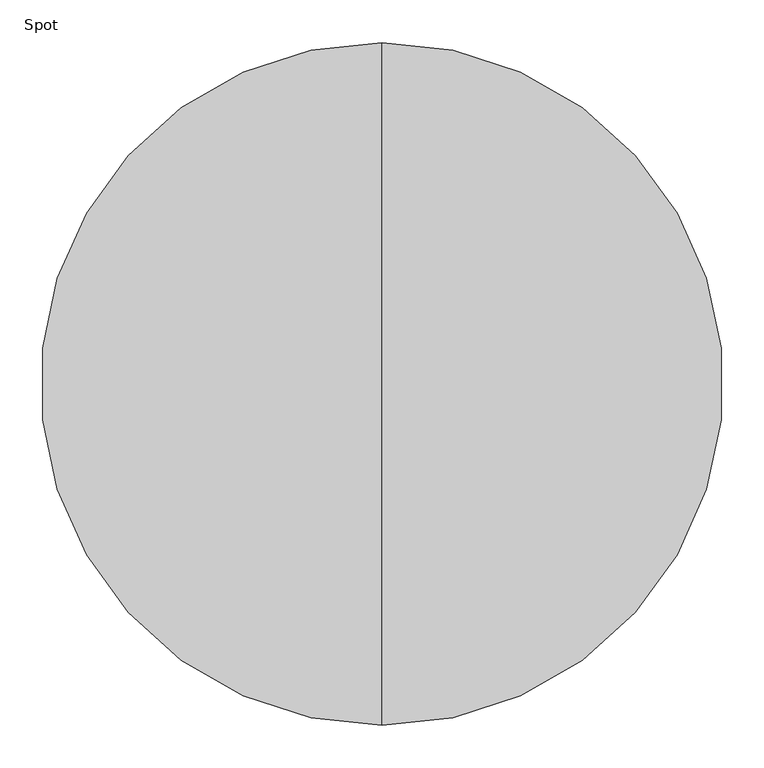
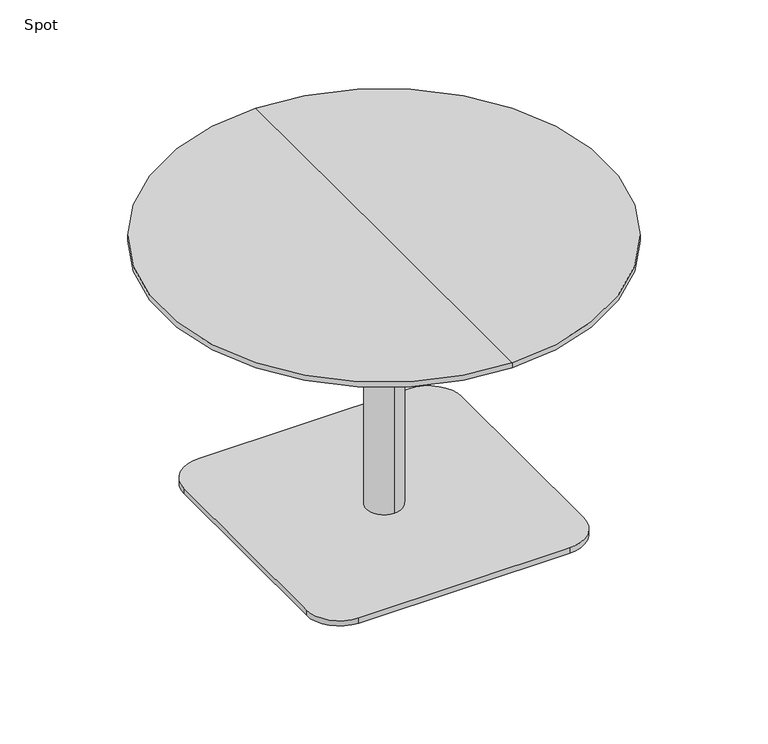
"""IFC4 building model written with IfcOpenShell, lengths in millimetres: furniture geometry, Spot : Bø80x52s."""

from ifc_helpers import new_model, si_unit, point, frame, frame_2d, origin, origin_with_axes, place, context, project, spatial, polyline, circle_curve, trimmed, segment, composite_curve, outline, extrude, source, transform, mapped, element, save
from ifc_brep_helpers import plane_surface, cylinder_surface, revolved_surface, advanced_brep


def spot_3f63cb51(model_context):
    return source(origin(), model_context, "Body", "SolidModel", [
        advanced_brep(
        [(0.0, -400.0, 520.0), (0.0, 400.0, 520.0), (0.0, 0.0, 520.0), (0.0, 400.0, 510.25), (0.0, -400.0, 510.25), (0.0, 0.0, 498.0), (0.0, -354.2823776, 498.0), (0.0, 354.2823776, 498.0)],
        [
            (0, 1, circle_curve(frame((0.0, 0.0, 520.0), z_axis=(0.0, 0.0, 1.0), x_axis=(0.0, -1.0, 0.0)), 400.0)),
            (1, 2),
            (2, 0),
            (3, 4, circle_curve(frame((0.0, 0.0, 510.25), z_axis=(0.0, 0.0, 1.0), x_axis=(0.0, -1.0, 0.0)), 400.0)),
            (4, 0),
            (0, 1, circle_curve(frame((0.0, 0.0, 520.0), z_axis=(0.0, 0.0, -1.0), x_axis=(0.0, -1.0, 0.0)), 400.0)),
            (1, 3),
            (5, 6),
            (6, 7, circle_curve(frame((0.0, 0.0, 498.0), z_axis=(0.0, 0.0, -1.0), x_axis=(0.0, -1.0, 0.0)), 354.2823776)),
            (7, 5),
            (7, 6, circle_curve(frame((0.0, 0.0, 498.0), z_axis=(0.0, 0.0, -1.0), x_axis=(0.0, -1.0, 0.0)), 354.2823776)),
            (4, 3, circle_curve(frame((0.0, 0.0, 510.25), z_axis=(0.0, 0.0, 1.0), x_axis=(0.0, -1.0, 0.0)), 400.0)),
            (6, 4),
            (3, 7),
        ],
        [
            plane_surface(frame((0.0, 0.0, 520.0), z_axis=(0.0, 0.0, 1.0), x_axis=(0.0, -1.0, 0.0))),
            cylinder_surface(frame((0.0, 0.0, 600.0), z_axis=(0.0, 0.0, -1.0), x_axis=(0.0, -1.0, 0.0)), 400.0),
            plane_surface(frame((0.0, 0.0, 498.0), z_axis=(0.0, 0.0, -1.0), x_axis=(0.0, -1.0, 0.0))),
            revolved_surface(polyline([(0.0, -400.0, 510.25), (0.0, -354.2823776, 498.0)]), (0.0, 0.0, 600.0), (0.0, 0.0, -1.0)),
        ],
        [
            (0, [[1, 2, 3]]),
            (1, [[4, 5, 6, 7]]),
            (2, [[8, 9, 10]]),
            (2, [[-10, 11, -8]]),
            (0, [[-6, -3, -2]]),
            (1, [[12, -7, -1, -5]]),
            (3, [[-9, 13, -4, 14]]),
            (3, [[-11, -14, -12, -13]]),
        ],
    ),
        extrude(outline(composite_curve([segment(trimmed(circle_curve(frame_2d((190.0, 190.0)), 60.0), [point((190.0, 250.0))], [point((250.0, 190.0))], False, "CARTESIAN"), True, "CONTINUOUS"), segment(polyline([(250.0, 190.0), (250.0, -190.0)]), True, "CONTINUOUS"), segment(trimmed(circle_curve(frame_2d((190.0, -190.0)), 60.0), [point((250.0, -190.0))], [point((190.0, -250.0))], False, "CARTESIAN"), True, "CONTINUOUS"), segment(polyline([(190.0, -250.0), (-190.0, -250.0)]), True, "CONTINUOUS"), segment(trimmed(circle_curve(frame_2d((-190.0, -190.0)), 60.0), [point((-190.0, -250.0))], [point((-250.0, -190.0))], False, "CARTESIAN"), True, "CONTINUOUS"), segment(polyline([(-250.0, -190.0), (-250.0, 190.0)]), True, "CONTINUOUS"), segment(trimmed(circle_curve(frame_2d((-190.0, 190.0)), 60.0), [point((-250.0, 190.0))], [point((-190.0, 250.0))], False, "CARTESIAN"), True, "CONTINUOUS"), segment(polyline([(-190.0, 250.0), (190.0, 250.0)]), True, "CONTINUOUS")], self_intersect=False)), origin_with_axes(), (0.0, 0.0, 1.0), 10.0),
        advanced_brep(
        [(0.0, 32.0, 10.0), (0.0, -32.0, 10.0), (0.0, -32.0, 467.406916), (0.0, 32.0, 467.406916), (0.0, 0.0, 10.0), (0.0, 150.0, 498.0), (0.0, -150.0, 498.0), (0.0, 0.0, 498.0), (0.0, 150.0, 486.7213673), (0.0, -150.0, 486.7213673)],
        [
            (0, 1, circle_curve(frame((0.0, 0.0, 10.0), z_axis=(0.0, 0.0, 1.0), x_axis=(0.0, -1.0, 0.0)), 32.0)),
            (1, 2),
            (2, 3, circle_curve(frame((0.0, 0.0, 467.406916), z_axis=(0.0, 0.0, -1.0), x_axis=(0.0, -1.0, 0.0)), 32.0)),
            (3, 0),
            (1, 0, circle_curve(frame((0.0, 0.0, 10.0), z_axis=(0.0, 0.0, 1.0), x_axis=(0.0, -1.0, 0.0)), 32.0)),
            (3, 2, circle_curve(frame((0.0, 0.0, 467.406916), z_axis=(0.0, 0.0, -1.0), x_axis=(0.0, -1.0, 0.0)), 32.0)),
            (4, 1),
            (0, 4),
            (5, 6, circle_curve(frame((0.0, 0.0, 498.0), z_axis=(0.0, 0.0, 1.0), x_axis=(0.0, -1.0, 0.0)), 150.0)),
            (6, 7),
            (7, 5),
            (6, 5, circle_curve(frame((0.0, 0.0, 498.0), z_axis=(0.0, 0.0, 1.0), x_axis=(0.0, -1.0, 0.0)), 150.0)),
            (8, 9, circle_curve(frame((0.0, 0.0, 486.7213673), z_axis=(0.0, 0.0, 1.0), x_axis=(0.0, -1.0, 0.0)), 150.0)),
            (9, 6),
            (5, 8),
            (9, 8, circle_curve(frame((0.0, 0.0, 486.7213673), z_axis=(0.0, 0.0, 1.0), x_axis=(0.0, -1.0, 0.0)), 150.0)),
            (2, 9),
            (8, 3),
        ],
        [
            cylinder_surface(frame((0.0, 0.0, 860.0), z_axis=(0.0, 0.0, -1.0), x_axis=(0.0, -1.0, 0.0)), 32.0),
            plane_surface(frame((0.0, 0.0, 10.0), z_axis=(0.0, 0.0, -1.0), x_axis=(0.0, -1.0, 0.0))),
            plane_surface(frame((0.0, 0.0, 498.0), z_axis=(0.0, 0.0, 1.0), x_axis=(0.0, -1.0, 0.0))),
            cylinder_surface(frame((0.0, 0.0, 860.0), z_axis=(0.0, 0.0, -1.0), x_axis=(0.0, -1.0, 0.0)), 150.0),
            revolved_surface(polyline([(0.0, -150.0, 486.7213673), (0.0, -32.0, 467.406916)]), (0.0, 0.0, 860.0), (0.0, 0.0, -1.0)),
        ],
        [
            (0, [[1, 2, 3, 4]]),
            (0, [[5, -4, 6, -2]]),
            (1, [[7, -1, 8]]),
            (1, [[-8, -5, -7]]),
            (2, [[9, 10, 11]]),
            (2, [[12, -11, -10]]),
            (3, [[13, 14, -9, 15]]),
            (3, [[16, -15, -12, -14]]),
            (4, [[-3, 17, -13, 18]]),
            (4, [[-6, -18, -16, -17]]),
        ],
    ),
        extrude(outline(polyline([(0.0, 0.0), (-20.0, 0.0), (-20.0, 20.0), (0.0, 20.0), (0.0, 0.0)])), origin_with_axes(), (0.0, 0.0, 1.0), 10.0),
    ])


if __name__ == "__main__":
    model = new_model("IFC4")
    model_context = context("Model", 3, world=origin())
    ifc_project = project(units=[si_unit("LENGTHUNIT", "METRE", prefix="MILLI")], contexts=[model_context])
    site = spatial("IfcSite", under=ifc_project)
    building = spatial("IfcBuilding", under=site)
    placement = place(None, origin())
    spot_shape = spot_3f63cb51(model_context)
    element("IfcFurniture", 1, ObjectType="Spot : Bø80x52s", at=placement, inside=building, context=model_context, shape_type="MappedRepresentation", body=[
        mapped(spot_shape, transform((0.0, 0.0, 0.0), x_axis=(1.0, 0.0, 0.0), y_axis=(0.0, 1.0, 0.0), z_axis=(0.0, 0.0, 1.0))),
    ])
    save(model, "model.ifc")
